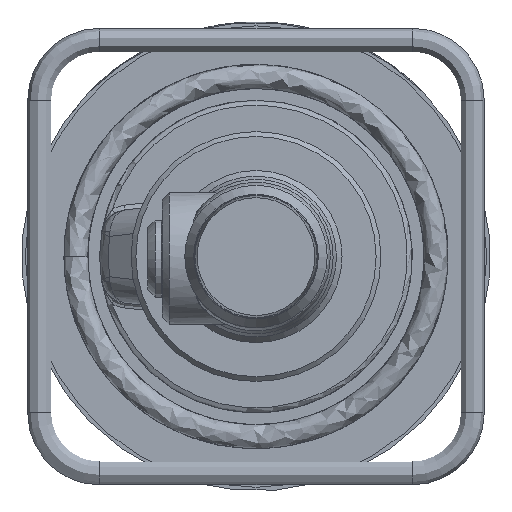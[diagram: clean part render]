
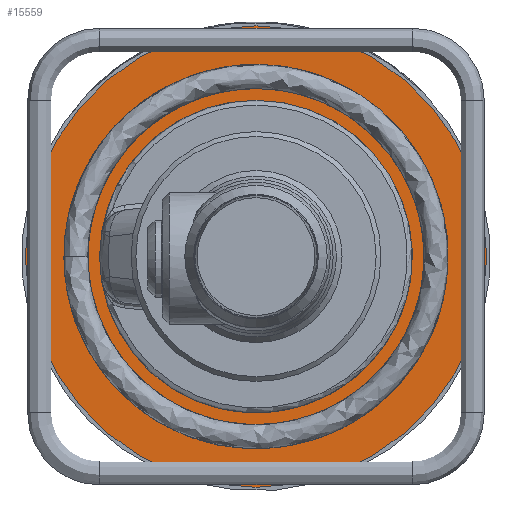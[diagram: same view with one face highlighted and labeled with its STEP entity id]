
A CAD part, left-side view. The second image highlights one B-rep face of the part: STEP entity #15559.
In plain terms, the highlighted planar face has unit normal (-1, 0, 0).
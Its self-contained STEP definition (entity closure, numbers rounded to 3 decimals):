
#3405=PLANE('',#16557);
#3580=FACE_BOUND('',#5589,.T.);
#4497=FACE_OUTER_BOUND('',#5588,.T.);
#5588=EDGE_LOOP('',(#14211));
#5589=EDGE_LOOP('',(#14212));
#5984=CIRCLE('',#16320,65.);
#6115=CIRCLE('',#16558,96.);
#7480=VERTEX_POINT('',#38450);
#7604=VERTEX_POINT('',#39742);
#9638=EDGE_CURVE('',#7480,#7480,#5984,.T.);
#9815=EDGE_CURVE('',#7604,#7604,#6115,.T.);
#14211=ORIENTED_EDGE('',*,*,#9815,.F.);
#14212=ORIENTED_EDGE('',*,*,#9638,.T.);
#15559=ADVANCED_FACE('',(#4497,#3580),#3405,.F.);
#16320=AXIS2_PLACEMENT_3D('',#38451,#18922,#18923);
#16557=AXIS2_PLACEMENT_3D('',#39741,#19398,#19399);
#16558=AXIS2_PLACEMENT_3D('',#39743,#19400,#19401);
#18922=DIRECTION('center_axis',(1.,0.,0.));
#18923=DIRECTION('ref_axis',(0.,0.,
1.));
#19398=DIRECTION('center_axis',(1.,0.,0.));
#19399=DIRECTION('ref_axis',(0.,1.,0.));
#19400=DIRECTION('center_axis',(1.,0.,0.));
#19401=DIRECTION('ref_axis',(0.,1.,0.));
#38450=CARTESIAN_POINT('',(0.,0.,65.));
#38451=CARTESIAN_POINT('Origin',(0.,0.,
0.));
#39741=CARTESIAN_POINT('Origin',(0.,0.,
0.));
#39742=CARTESIAN_POINT('',(0.,-96.,0.));
#39743=CARTESIAN_POINT('Origin',(0.,0.,
0.));
